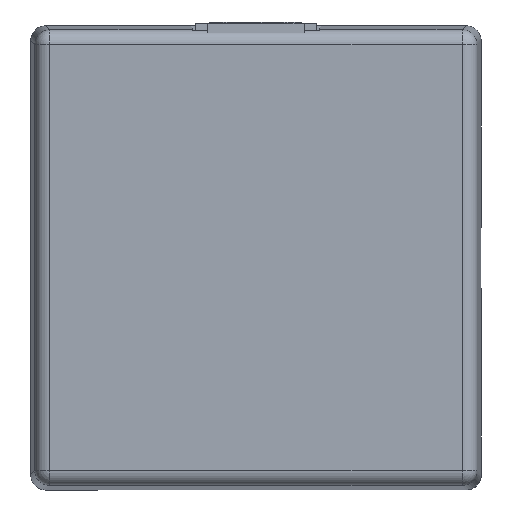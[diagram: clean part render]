
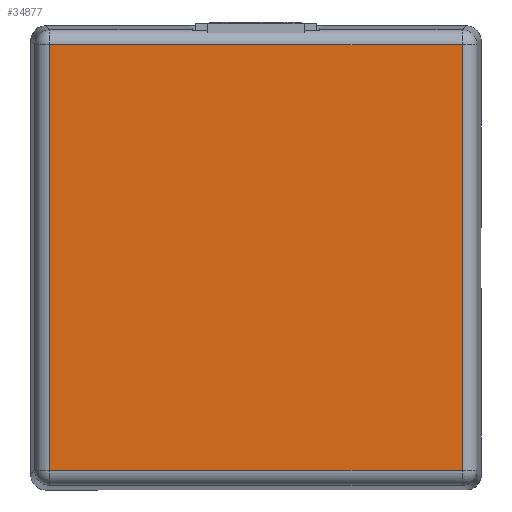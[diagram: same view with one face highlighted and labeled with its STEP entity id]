
A CAD part, top view. The second image highlights one B-rep face of the part: STEP entity #34877.
In plain terms, the highlighted planar face has unit normal (0, 0, 1) as drawn and (0, 0, -1) by its records, which use the part's own axes.
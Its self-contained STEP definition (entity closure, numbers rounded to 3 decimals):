
#13822=PLANE('',#36167);
#15182=VERTEX_POINT('',#43811);
#15183=VERTEX_POINT('',#43813);
#15278=VERTEX_POINT('',#44111);
#15279=VERTEX_POINT('',#44113);
#17267=VECTOR('',#38189,1.);
#17349=VECTOR('',#38311,1.);
#17350=VECTOR('',#38312,1.);
#17351=VECTOR('',#38313,1.);
#19759=LINE('',#43812,#17267);
#19841=LINE('',#44110,#17349);
#19842=LINE('',#44112,#17350);
#19843=LINE('',#44114,#17351);
#22260=EDGE_CURVE('',#15182,#15183,#19759,.T.);
#22366=EDGE_CURVE('',#15183,#15278,#19841,.T.);
#22367=EDGE_CURVE('',#15279,#15182,#19842,.T.);
#22368=EDGE_CURVE('',#15278,#15279,#19843,.T.);
#25662=ORIENTED_EDGE('',*,*,#22366,.F.);
#25663=ORIENTED_EDGE('',*,*,#22260,.F.);
#25664=ORIENTED_EDGE('',*,*,#22367,.F.);
#25665=ORIENTED_EDGE('',*,*,#22368,.F.);
#32061=EDGE_LOOP('',(#25662,#25663,#25664,#25665));
#33469=FACE_BOUND('',#32061,.T.);
#34877=ADVANCED_FACE('',(#33469),#13822,.F.);
#36167=AXIS2_PLACEMENT_3D('',#44109,#38310,$);
#38189=DIRECTION('',(1.,0.,0.));
#38310=DIRECTION('',(0.,0.,1.));
#38311=DIRECTION('',(0.,1.,0.));
#38312=DIRECTION('',(0.,-1.,0.));
#38313=DIRECTION('',(-1.,0.,0.));
#43811=CARTESIAN_POINT('',(-17.324,-17.895,-0.032));
#43812=CARTESIAN_POINT('',(-17.324,-17.895,-0.032));
#43813=CARTESIAN_POINT('',(17.324,-17.895,-0.032));
#44109=CARTESIAN_POINT('',(0.,0.,-0.032));
#44110=CARTESIAN_POINT('',(17.324,-17.895,-0.032));
#44111=CARTESIAN_POINT('',(17.324,17.895,-0.032));
#44112=CARTESIAN_POINT('',(-17.324,17.895,-0.032));
#44113=CARTESIAN_POINT('',(-17.324,17.895,-0.032));
#44114=CARTESIAN_POINT('',(17.324,17.895,-0.032));
